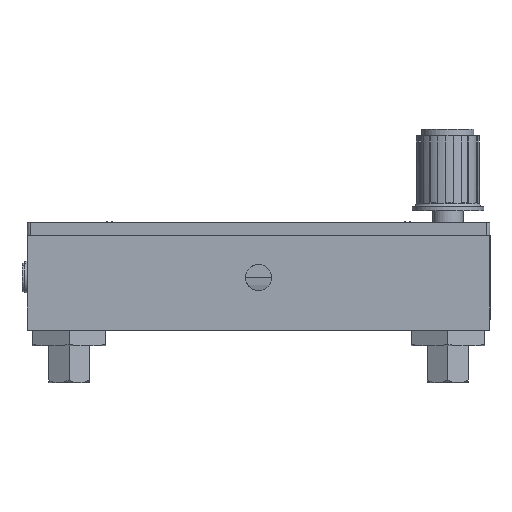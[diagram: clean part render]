
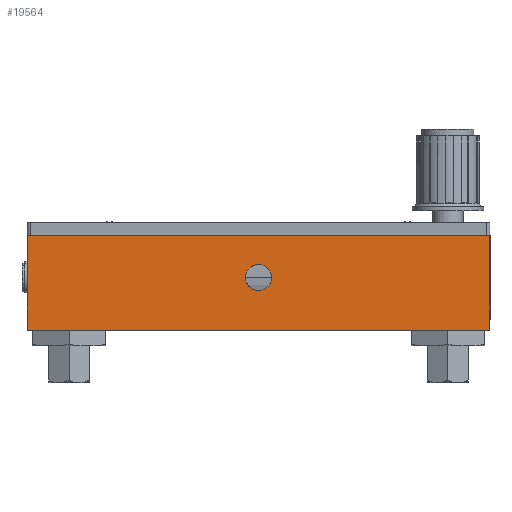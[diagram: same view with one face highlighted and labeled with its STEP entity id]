
A CAD part, left-side view. The second image highlights one B-rep face of the part: STEP entity #19564.
In plain terms, the highlighted planar face has unit normal (-1, 0, 0).
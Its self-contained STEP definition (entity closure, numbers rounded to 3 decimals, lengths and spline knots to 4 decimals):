
#2221 = ORIENTED_EDGE ( 'NONE', *, *, #20385, .T. ) ;
#2954 = DIRECTION ( 'NONE',  ( 0., 0., 1. ) ) ;
#3283 = VERTEX_POINT ( 'NONE', #36268 ) ;
#5718 = CARTESIAN_POINT ( 'NONE',  ( -0.5839, 2.8981, -0.6848 ) ) ;
#6542 = CARTESIAN_POINT ( 'NONE',  ( -0.5839, -2.6019, -0.6848 ) ) ;
#7464 = EDGE_CURVE ( 'NONE', #12176, #8083, #34029, .T. ) ;
#7878 = DIRECTION ( 'NONE',  ( 0., 0., 1. ) ) ;
#8083 = VERTEX_POINT ( 'NONE', #16937 ) ;
#8220 = ORIENTED_EDGE ( 'NONE', *, *, #33102, .F. ) ;
#9144 = FACE_OUTER_BOUND ( 'NONE', #39372, .T. ) ;
#9463 = ORIENTED_EDGE ( 'NONE', *, *, #7464, .T. ) ;
#9635 = LINE ( 'NONE', #6542, #15347 ) ;
#10736 = DIRECTION ( 'NONE',  ( 1., 0., 0. ) ) ;
#11446 = CARTESIAN_POINT ( 'NONE',  ( -0.5839, 2.8981, 0.4402 ) ) ;
#12176 = VERTEX_POINT ( 'NONE', #28280 ) ;
#13048 = EDGE_LOOP ( 'NONE', ( #9463, #2221 ) ) ;
#15347 = VECTOR ( 'NONE', #2954, 39.3701 ) ;
#15938 = VECTOR ( 'NONE', #34715, 39.3701 ) ;
#16937 = CARTESIAN_POINT ( 'NONE',  ( -0.5839, 0.1481, 0.0965 ) ) ;
#16969 = EDGE_CURVE ( 'NONE', #3283, #40680, #25157, .T. ) ;
#17407 = CARTESIAN_POINT ( 'NONE',  ( -0.5839, 0.1481, -0.0598 ) ) ;
#18275 = CARTESIAN_POINT ( 'NONE',  ( -0.5839, 2.8981, 0.4402 ) ) ;
#19564 = ADVANCED_FACE ( 'NONE', ( #44218, #9144 ), #29076, .F. ) ;
#20356 = ORIENTED_EDGE ( 'NONE', *, *, #16969, .T. ) ;
#20385 = EDGE_CURVE ( 'NONE', #8083, #12176, #43013, .T. ) ;
#21252 = LINE ( 'NONE', #36887, #32462 ) ;
#24701 = VECTOR ( 'NONE', #33860, 39.3701 ) ;
#25016 = AXIS2_PLACEMENT_3D ( 'NONE', #17407, #29181, #33030 ) ;
#25157 = LINE ( 'NONE', #5718, #24701 ) ;
#25319 = LINE ( 'NONE', #11446, #15938 ) ;
#28280 = CARTESIAN_POINT ( 'NONE',  ( -0.5839, 0.1481, -0.216 ) ) ;
#28569 = DIRECTION ( 'NONE',  ( 0., 0., -1. ) ) ;
#29076 = PLANE ( 'NONE',  #42937 ) ;
#29181 = DIRECTION ( 'NONE',  ( 1., 0., 0. ) ) ;
#31495 = VERTEX_POINT ( 'NONE', #18275 ) ;
#32462 = VECTOR ( 'NONE', #7878, 39.3701 ) ;
#32792 = CARTESIAN_POINT ( 'NONE',  ( -0.5839, -2.6019, 0.4402 ) ) ;
#33030 = DIRECTION ( 'NONE',  ( 0., 0., -1. ) ) ;
#33102 = EDGE_CURVE ( 'NONE', #31495, #46245, #25319, .T. ) ;
#33860 = DIRECTION ( 'NONE',  ( 0., -1., 0. ) ) ;
#34029 = CIRCLE ( 'NONE', #25016, 0.1563 ) ;
#34715 = DIRECTION ( 'NONE',  ( 0., -1., 0. ) ) ;
#34756 = CARTESIAN_POINT ( 'NONE',  ( -0.5839, 0.1481, -0.0598 ) ) ;
#36058 = EDGE_CURVE ( 'NONE', #3283, #31495, #21252, .T. ) ;
#36268 = CARTESIAN_POINT ( 'NONE',  ( -0.5839, 2.8981, -0.6848 ) ) ;
#36278 = EDGE_CURVE ( 'NONE', #40680, #46245, #9635, .T. ) ;
#36766 = DIRECTION ( 'NONE',  ( 1., 0., 0. ) ) ;
#36887 = CARTESIAN_POINT ( 'NONE',  ( -0.5839, 2.8981, -0.6848 ) ) ;
#38663 = ORIENTED_EDGE ( 'NONE', *, *, #36278, .T. ) ;
#39372 = EDGE_LOOP ( 'NONE', ( #38663, #8220, #44532, #20356 ) ) ;
#40680 = VERTEX_POINT ( 'NONE', #50074 ) ;
#42216 = DIRECTION ( 'NONE',  ( 0., 0., -1. ) ) ;
#42937 = AXIS2_PLACEMENT_3D ( 'NONE', #48816, #36766, #28569 ) ;
#43013 = CIRCLE ( 'NONE', #47953, 0.1563 ) ;
#44218 = FACE_BOUND ( 'NONE', #13048, .T. ) ;
#44532 = ORIENTED_EDGE ( 'NONE', *, *, #36058, .F. ) ;
#46245 = VERTEX_POINT ( 'NONE', #32792 ) ;
#47953 = AXIS2_PLACEMENT_3D ( 'NONE', #34756, #10736, #42216 ) ;
#48816 = CARTESIAN_POINT ( 'NONE',  ( -0.5839, 2.8981, -0.6848 ) ) ;
#50074 = CARTESIAN_POINT ( 'NONE',  ( -0.5839, -2.6019, -0.6848 ) ) ;
